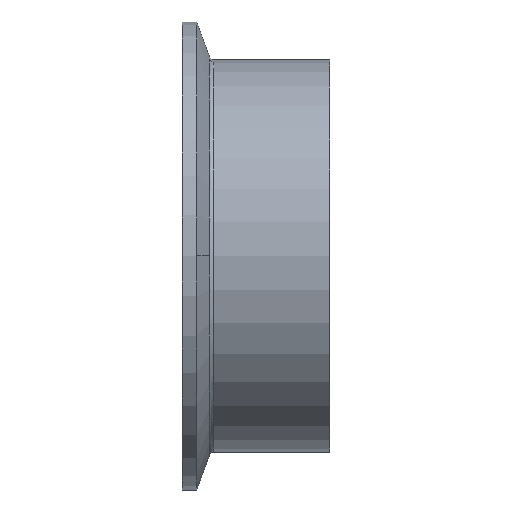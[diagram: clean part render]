
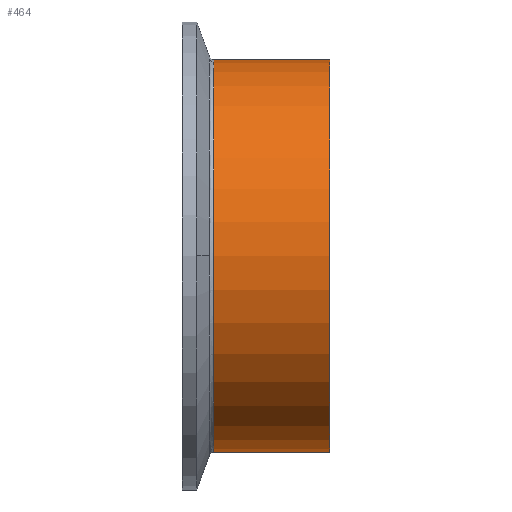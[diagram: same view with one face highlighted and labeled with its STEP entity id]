
A CAD part, top view. The second image highlights one B-rep face of the part: STEP entity #464.
In plain terms, the highlighted cylindrical face has radius 38.1 mm (diameter 76.2 mm), a partial arc.
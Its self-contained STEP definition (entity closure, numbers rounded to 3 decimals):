
#5 = EDGE_CURVE ( 'NONE', #555, #727, #161, .T. ) ;
#7 = FACE_OUTER_BOUND ( 'NONE', #240, .T. ) ;
#25 = ORIENTED_EDGE ( 'NONE', *, *, #5, .F. ) ;
#58 = CARTESIAN_POINT ( 'NONE',  ( 45.786, -38.1, 0. ) ) ;
#79 = DIRECTION ( 'NONE',  ( 1., 0., 0. ) ) ;
#91 = LINE ( 'NONE', #58, #1024 ) ;
#124 = CIRCLE ( 'NONE', #942, 38.1 ) ;
#128 = CARTESIAN_POINT ( 'NONE',  ( -22.539, -38.1, 0. ) ) ;
#130 = CARTESIAN_POINT ( 'NONE',  ( 0., 38.1, 0. ) ) ;
#160 = DIRECTION ( 'NONE',  ( 0., 1., 0. ) ) ;
#161 = CIRCLE ( 'NONE', #571, 38.1 ) ;
#168 = DIRECTION ( 'NONE',  ( 1., 0., 0. ) ) ;
#178 = DIRECTION ( 'NONE',  ( 1., 0., 0. ) ) ;
#180 = CARTESIAN_POINT ( 'NONE',  ( -22.539, 0., 0. ) ) ;
#240 = EDGE_LOOP ( 'NONE', ( #1037, #1164, #25, #934 ) ) ;
#278 = CARTESIAN_POINT ( 'NONE',  ( 45.786, 0., 0. ) ) ;
#290 = CYLINDRICAL_SURFACE ( 'NONE', #1407, 38.1 ) ;
#341 = EDGE_CURVE ( 'NONE', #1202, #371, #124, .T. ) ;
#371 = VERTEX_POINT ( 'NONE', #128 ) ;
#396 = EDGE_CURVE ( 'NONE', #371, #727, #91, .T. ) ;
#464 = ADVANCED_FACE ( 'NONE', ( #7 ), #290, .T. ) ;
#536 = DIRECTION ( 'NONE',  ( 1., 0., 0. ) ) ;
#555 = VERTEX_POINT ( 'NONE', #130 ) ;
#571 = AXIS2_PLACEMENT_3D ( 'NONE', #1510, #178, #857 ) ;
#643 = DIRECTION ( 'NONE',  ( 0., 1., 0. ) ) ;
#704 = CARTESIAN_POINT ( 'NONE',  ( 0., -38.1, 0. ) ) ;
#727 = VERTEX_POINT ( 'NONE', #704 ) ;
#823 = LINE ( 'NONE', #951, #1175 ) ;
#857 = DIRECTION ( 'NONE',  ( 0., 1., 0. ) ) ;
#934 = ORIENTED_EDGE ( 'NONE', *, *, #1283, .F. ) ;
#942 = AXIS2_PLACEMENT_3D ( 'NONE', #180, #168, #160 ) ;
#951 = CARTESIAN_POINT ( 'NONE',  ( 45.786, 38.1, 0. ) ) ;
#956 = DIRECTION ( 'NONE',  ( 1., 0., 0. ) ) ;
#1024 = VECTOR ( 'NONE', #536, 1000. ) ;
#1037 = ORIENTED_EDGE ( 'NONE', *, *, #341, .T. ) ;
#1164 = ORIENTED_EDGE ( 'NONE', *, *, #396, .T. ) ;
#1175 = VECTOR ( 'NONE', #956, 1000. ) ;
#1202 = VERTEX_POINT ( 'NONE', #1319 ) ;
#1283 = EDGE_CURVE ( 'NONE', #1202, #555, #823, .T. ) ;
#1319 = CARTESIAN_POINT ( 'NONE',  ( -22.539, 38.1, 0. ) ) ;
#1407 = AXIS2_PLACEMENT_3D ( 'NONE', #278, #79, #643 ) ;
#1510 = CARTESIAN_POINT ( 'NONE',  ( 0., 0., 0. ) ) ;
